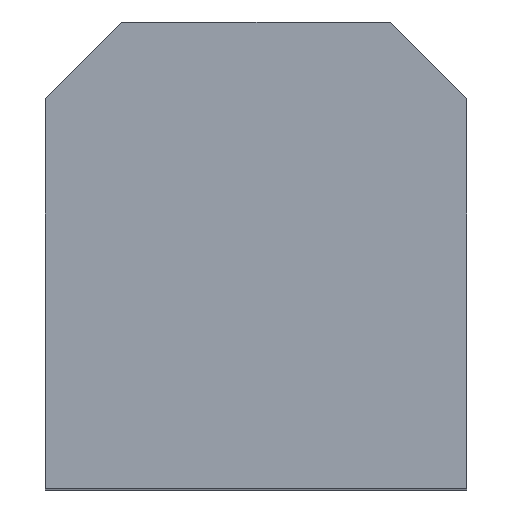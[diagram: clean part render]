
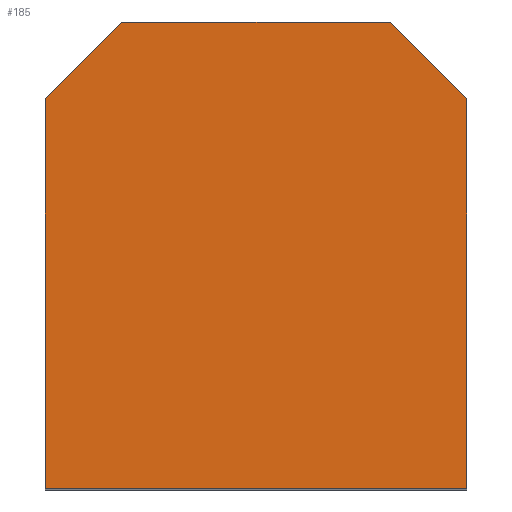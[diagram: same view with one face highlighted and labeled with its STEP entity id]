
A CAD part, top view. The second image highlights one B-rep face of the part: STEP entity #185.
In plain terms, the highlighted planar face has unit normal (0, 0, 1).
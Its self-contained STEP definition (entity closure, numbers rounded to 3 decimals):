
#6 = CARTESIAN_POINT ( 'NONE',  ( 16.5, -14., 70. ) ) ;
#19 = DIRECTION ( 'NONE',  ( -0.707, -0.707, 0. ) ) ;
#33 = CARTESIAN_POINT ( 'NONE',  ( 16.5, 16.5, 70. ) ) ;
#63 = PLANE ( 'NONE',  #423 ) ;
#79 = CARTESIAN_POINT ( 'NONE',  ( 10.5, 22.5, 70. ) ) ;
#89 = CARTESIAN_POINT ( 'NONE',  ( -16.5, -14., 70. ) ) ;
#97 = DIRECTION ( 'NONE',  ( 0., -1., 0. ) ) ;
#113 = CARTESIAN_POINT ( 'NONE',  ( -10.5, 22.5, 70. ) ) ;
#144 = CARTESIAN_POINT ( 'NONE',  ( -16.5, 16.5, 70. ) ) ;
#146 = CARTESIAN_POINT ( 'NONE',  ( 16.5, -14., 70. ) ) ;
#147 = CARTESIAN_POINT ( 'NONE',  ( 16.5, 16.5, 70. ) ) ;
#152 = DIRECTION ( 'NONE',  ( -1., 0., 0. ) ) ;
#154 = CARTESIAN_POINT ( 'NONE',  ( -10.5, 22.5, 70. ) ) ;
#171 = CARTESIAN_POINT ( 'NONE',  ( 16.5, -14., 70. ) ) ;
#179 = CARTESIAN_POINT ( 'NONE',  ( -16.5, -14., 70. ) ) ;
#185 = ADVANCED_FACE ( 'NONE', ( #625 ), #63, .F. ) ;
#203 = DIRECTION ( 'NONE',  ( 0., 0., -1. ) ) ;
#208 = DIRECTION ( 'NONE',  ( -1., 0., 0. ) ) ;
#239 = EDGE_CURVE ( 'NONE', #630, #377, #667, .T. ) ;
#267 = EDGE_CURVE ( 'NONE', #621, #377, #457, .T. ) ;
#286 = CARTESIAN_POINT ( 'NONE',  ( 16.5, -14., 70. ) ) ;
#291 = EDGE_CURVE ( 'NONE', #656, #621, #372, .T. ) ;
#301 = LINE ( 'NONE', #338, #339 ) ;
#314 = DIRECTION ( 'NONE',  ( -0.707, 0.707, 0. ) ) ;
#315 = VECTOR ( 'NONE', #344, 1000. ) ;
#320 = LINE ( 'NONE', #171, #315 ) ;
#321 = EDGE_CURVE ( 'NONE', #601, #665, #659, .T. ) ;
#328 = DIRECTION ( 'NONE',  ( -1., 0., 0. ) ) ;
#338 = CARTESIAN_POINT ( 'NONE',  ( 16.5, 22.5, 70. ) ) ;
#339 = VECTOR ( 'NONE', #328, 1000. ) ;
#344 = DIRECTION ( 'NONE',  ( 0., -1., 0. ) ) ;
#372 = LINE ( 'NONE', #113, #600 ) ;
#377 = VERTEX_POINT ( 'NONE', #179 ) ;
#389 = EDGE_CURVE ( 'NONE', #601, #630, #320, .T. ) ;
#400 = EDGE_CURVE ( 'NONE', #665, #656, #301, .T. ) ;
#423 = AXIS2_PLACEMENT_3D ( 'NONE', #6, #203, #152 ) ;
#449 = ORIENTED_EDGE ( 'NONE', *, *, #389, .F. ) ;
#457 = LINE ( 'NONE', #89, #658 ) ;
#464 = ORIENTED_EDGE ( 'NONE', *, *, #400, .T. ) ;
#476 = ORIENTED_EDGE ( 'NONE', *, *, #321, .T. ) ;
#502 = ORIENTED_EDGE ( 'NONE', *, *, #291, .T. ) ;
#514 = ORIENTED_EDGE ( 'NONE', *, *, #267, .T. ) ;
#516 = VECTOR ( 'NONE', #208, 1000. ) ;
#555 = ORIENTED_EDGE ( 'NONE', *, *, #239, .F. ) ;
#586 = VECTOR ( 'NONE', #314, 1000. ) ;
#600 = VECTOR ( 'NONE', #19, 1000. ) ;
#601 = VERTEX_POINT ( 'NONE', #147 ) ;
#621 = VERTEX_POINT ( 'NONE', #144 ) ;
#625 = FACE_OUTER_BOUND ( 'NONE', #677, .T. ) ;
#630 = VERTEX_POINT ( 'NONE', #146 ) ;
#656 = VERTEX_POINT ( 'NONE', #154 ) ;
#658 = VECTOR ( 'NONE', #97, 1000. ) ;
#659 = LINE ( 'NONE', #33, #586 ) ;
#665 = VERTEX_POINT ( 'NONE', #79 ) ;
#667 = LINE ( 'NONE', #286, #516 ) ;
#677 = EDGE_LOOP ( 'NONE', ( #449, #476, #464, #502, #514, #555 ) ) ;
